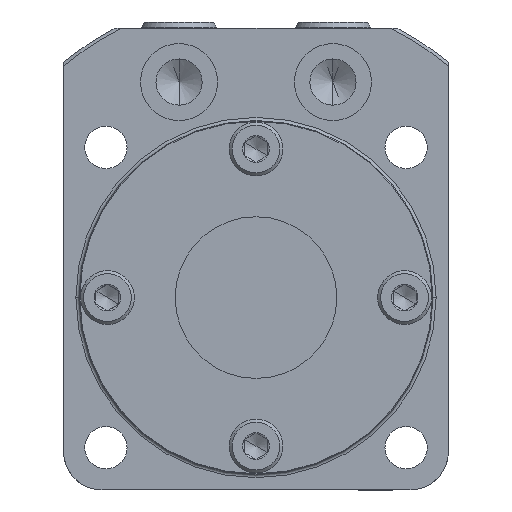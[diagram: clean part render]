
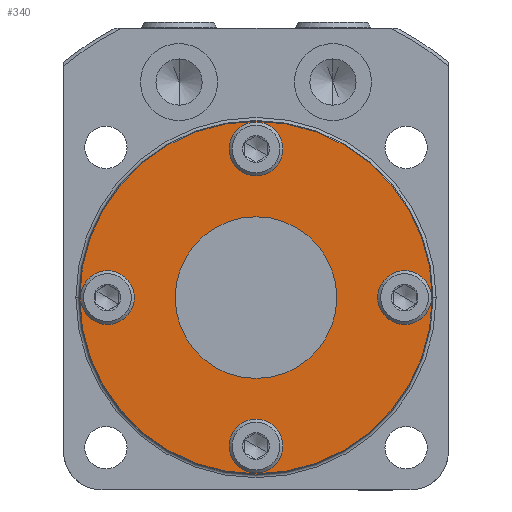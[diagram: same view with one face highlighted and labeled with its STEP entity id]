
A CAD part, front view. The second image highlights one B-rep face of the part: STEP entity #340.
In plain terms, the highlighted planar face has unit normal (0, -1, 0).
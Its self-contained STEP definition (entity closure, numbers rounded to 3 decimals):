
#2 = EDGE_CURVE ( 'NONE', #7, #3, #1942, .T. ) ;
#3 = VERTEX_POINT ( 'NONE', #1937 ) ;
#7 = VERTEX_POINT ( 'NONE', #1931 ) ;
#42 = EDGE_LOOP ( 'NONE', ( #43, #121 ) ) ;
#43 = ORIENTED_EDGE ( 'NONE', *, *, #122, .F. ) ;
#100 = VERTEX_POINT ( 'NONE', #2168 ) ;
#102 = VERTEX_POINT ( 'NONE', #2167 ) ;
#105 = EDGE_CURVE ( 'NONE', #102, #100, #2227, .T. ) ;
#109 = VERTEX_POINT ( 'NONE', #2218 ) ;
#111 = EDGE_CURVE ( 'NONE', #109, #114, #2217, .T. ) ;
#114 = VERTEX_POINT ( 'NONE', #2208 ) ;
#119 = ORIENTED_EDGE ( 'NONE', *, *, #188, .F. ) ;
#120 = EDGE_LOOP ( 'NONE', ( #119, #322 ) ) ;
#121 = ORIENTED_EDGE ( 'NONE', *, *, #163, .F. ) ;
#122 = EDGE_CURVE ( 'NONE', #156, #159, #2200, .T. ) ;
#156 = VERTEX_POINT ( 'NONE', #2287 ) ;
#159 = VERTEX_POINT ( 'NONE', #2273 ) ;
#163 = EDGE_CURVE ( 'NONE', #159, #156, #2270, .T. ) ;
#176 = EDGE_CURVE ( 'NONE', #182, #178, #2315, .T. ) ;
#178 = VERTEX_POINT ( 'NONE', #2307 ) ;
#182 = VERTEX_POINT ( 'NONE', #2302 ) ;
#188 = EDGE_CURVE ( 'NONE', #178, #182, #2352, .T. ) ;
#310 = EDGE_LOOP ( 'NONE', ( #311, #312 ) ) ;
#311 = ORIENTED_EDGE ( 'NONE', *, *, #111, .T. ) ;
#312 = ORIENTED_EDGE ( 'NONE', *, *, #339, .T. ) ;
#322 = ORIENTED_EDGE ( 'NONE', *, *, #176, .F. ) ;
#323 = EDGE_LOOP ( 'NONE', ( #324, #326 ) ) ;
#324 = ORIENTED_EDGE ( 'NONE', *, *, #325, .F. ) ;
#325 = EDGE_CURVE ( 'NONE', #5835, #5884, #2629, .T. ) ;
#326 = ORIENTED_EDGE ( 'NONE', *, *, #5899, .F. ) ;
#327 = EDGE_LOOP ( 'NONE', ( #328, #330 ) ) ;
#328 = ORIENTED_EDGE ( 'NONE', *, *, #329, .F. ) ;
#329 = EDGE_CURVE ( 'NONE', #3, #7, #2622, .T. ) ;
#330 = ORIENTED_EDGE ( 'NONE', *, *, #2, .F. ) ;
#331 = EDGE_LOOP ( 'NONE', ( #332, #333 ) ) ;
#332 = ORIENTED_EDGE ( 'NONE', *, *, #105, .F. ) ;
#333 = ORIENTED_EDGE ( 'NONE', *, *, #334, .F. ) ;
#334 = EDGE_CURVE ( 'NONE', #100, #102, #2617, .T. ) ;
#339 = EDGE_CURVE ( 'NONE', #114, #109, #2606, .T. ) ;
#340 = ADVANCED_FACE ( 'NONE', ( #2601, #2600, #2599, #2598, #2597, #2596 ), #2650, .T. ) ;
#1931 = CARTESIAN_POINT ( 'NONE',  ( 0., 15., 21.45 ) ) ;
#1937 = CARTESIAN_POINT ( 'NONE',  ( 0., 15., 17.15 ) ) ;
#1938 = DIRECTION ( 'NONE',  ( 0., 0., -1. ) ) ;
#1939 = DIRECTION ( 'NONE',  ( 0., -1., 0. ) ) ;
#1940 = CARTESIAN_POINT ( 'NONE',  ( 0., 15., 19.3 ) ) ;
#1941 = AXIS2_PLACEMENT_3D ( 'NONE', #1940, #1939, #1938 ) ;
#1942 = CIRCLE ( 'NONE', #1941, 2.15 ) ;
#2167 = CARTESIAN_POINT ( 'NONE',  ( 0., 15., -10.5 ) ) ;
#2168 = CARTESIAN_POINT ( 'NONE',  ( 0., 15., 10.5 ) ) ;
#2200 = CIRCLE ( 'NONE', #2264, 2.15 ) ;
#2208 = CARTESIAN_POINT ( 'NONE',  ( 0., 15., 22.9 ) ) ;
#2213 = DIRECTION ( 'NONE',  ( 0., 0., -1. ) ) ;
#2214 = DIRECTION ( 'NONE',  ( 0., -1., 0. ) ) ;
#2215 = CARTESIAN_POINT ( 'NONE',  ( 0., 15., 0. ) ) ;
#2216 = AXIS2_PLACEMENT_3D ( 'NONE', #2215, #2214, #2213 ) ;
#2217 = CIRCLE ( 'NONE', #2216, 22.9 ) ;
#2218 = CARTESIAN_POINT ( 'NONE',  ( 0., 15., -22.9 ) ) ;
#2223 = DIRECTION ( 'NONE',  ( 0., 0., -1. ) ) ;
#2224 = DIRECTION ( 'NONE',  ( 0., -1., 0. ) ) ;
#2225 = CARTESIAN_POINT ( 'NONE',  ( 0., 15., 0. ) ) ;
#2226 = AXIS2_PLACEMENT_3D ( 'NONE', #2225, #2224, #2223 ) ;
#2227 = CIRCLE ( 'NONE', #2226, 10.5 ) ;
#2261 = DIRECTION ( 'NONE',  ( 0., 0., -1. ) ) ;
#2262 = DIRECTION ( 'NONE',  ( 0., -1., 0. ) ) ;
#2263 = CARTESIAN_POINT ( 'NONE',  ( 19.3, 15., 0. ) ) ;
#2264 = AXIS2_PLACEMENT_3D ( 'NONE', #2263, #2262, #2261 ) ;
#2266 = DIRECTION ( 'NONE',  ( 0., 0., -1. ) ) ;
#2267 = DIRECTION ( 'NONE',  ( 0., -1., 0. ) ) ;
#2268 = CARTESIAN_POINT ( 'NONE',  ( 19.3, 15., 0. ) ) ;
#2269 = AXIS2_PLACEMENT_3D ( 'NONE', #2268, #2267, #2266 ) ;
#2270 = CIRCLE ( 'NONE', #2269, 2.15 ) ;
#2273 = CARTESIAN_POINT ( 'NONE',  ( 19.3, 15., 2.15 ) ) ;
#2287 = CARTESIAN_POINT ( 'NONE',  ( 19.3, 15., -2.15 ) ) ;
#2302 = CARTESIAN_POINT ( 'NONE',  ( -19.3, 15., 2.15 ) ) ;
#2307 = CARTESIAN_POINT ( 'NONE',  ( -19.3, 15., -2.15 ) ) ;
#2311 = DIRECTION ( 'NONE',  ( 0., 0., -1. ) ) ;
#2312 = DIRECTION ( 'NONE',  ( 0., -1., 0. ) ) ;
#2313 = CARTESIAN_POINT ( 'NONE',  ( -19.3, 15., 0. ) ) ;
#2314 = AXIS2_PLACEMENT_3D ( 'NONE', #2313, #2312, #2311 ) ;
#2315 = CIRCLE ( 'NONE', #2314, 2.15 ) ;
#2348 = DIRECTION ( 'NONE',  ( 0., 0., -1. ) ) ;
#2349 = DIRECTION ( 'NONE',  ( 0., -1., 0. ) ) ;
#2350 = CARTESIAN_POINT ( 'NONE',  ( -19.3, 15., 0. ) ) ;
#2351 = AXIS2_PLACEMENT_3D ( 'NONE', #2350, #2349, #2348 ) ;
#2352 = CIRCLE ( 'NONE', #2351, 2.15 ) ;
#2596 = FACE_OUTER_BOUND ( 'NONE', #310, .T. ) ;
#2597 = FACE_BOUND ( 'NONE', #331, .T. ) ;
#2598 = FACE_BOUND ( 'NONE', #327, .T. ) ;
#2599 = FACE_BOUND ( 'NONE', #323, .T. ) ;
#2600 = FACE_BOUND ( 'NONE', #120, .T. ) ;
#2601 = FACE_BOUND ( 'NONE', #42, .T. ) ;
#2602 = DIRECTION ( 'NONE',  ( 0., 0., -1. ) ) ;
#2603 = DIRECTION ( 'NONE',  ( 0., -1., 0. ) ) ;
#2604 = CARTESIAN_POINT ( 'NONE',  ( 0., 15., 0. ) ) ;
#2605 = AXIS2_PLACEMENT_3D ( 'NONE', #2604, #2603, #2602 ) ;
#2606 = CIRCLE ( 'NONE', #2605, 22.9 ) ;
#2613 = DIRECTION ( 'NONE',  ( 0., 0., -1. ) ) ;
#2614 = DIRECTION ( 'NONE',  ( 0., -1., 0. ) ) ;
#2615 = CARTESIAN_POINT ( 'NONE',  ( 0., 15., 0. ) ) ;
#2616 = AXIS2_PLACEMENT_3D ( 'NONE', #2615, #2614, #2613 ) ;
#2617 = CIRCLE ( 'NONE', #2616, 10.5 ) ;
#2618 = DIRECTION ( 'NONE',  ( 0., 0., -1. ) ) ;
#2619 = DIRECTION ( 'NONE',  ( 0., -1., 0. ) ) ;
#2620 = CARTESIAN_POINT ( 'NONE',  ( 0., 15., 19.3 ) ) ;
#2621 = AXIS2_PLACEMENT_3D ( 'NONE', #2620, #2619, #2618 ) ;
#2622 = CIRCLE ( 'NONE', #2621, 2.15 ) ;
#2623 = DIRECTION ( 'NONE',  ( 0., 0., -1. ) ) ;
#2624 = DIRECTION ( 'NONE',  ( 0., -1., 0. ) ) ;
#2625 = CARTESIAN_POINT ( 'NONE',  ( 0., 15., -19.3 ) ) ;
#2626 = AXIS2_PLACEMENT_3D ( 'NONE', #2625, #2624, #2623 ) ;
#2629 = CIRCLE ( 'NONE', #2626, 2.15 ) ;
#2646 = DIRECTION ( 'NONE',  ( 0., 0., -1. ) ) ;
#2647 = DIRECTION ( 'NONE',  ( 0., -1., 0. ) ) ;
#2648 = CARTESIAN_POINT ( 'NONE',  ( 0., 15., 0. ) ) ;
#2649 = AXIS2_PLACEMENT_3D ( 'NONE', #2648, #2647, #2646 ) ;
#2650 = PLANE ( 'NONE',  #2649 ) ;
#5835 = VERTEX_POINT ( 'NONE', #5875 ) ;
#5869 = DIRECTION ( 'NONE',  ( 0., 0., -1. ) ) ;
#5870 = DIRECTION ( 'NONE',  ( 0., -1., 0. ) ) ;
#5871 = CARTESIAN_POINT ( 'NONE',  ( 0., 15., -19.3 ) ) ;
#5872 = AXIS2_PLACEMENT_3D ( 'NONE', #5871, #5870, #5869 ) ;
#5873 = CIRCLE ( 'NONE', #5872, 2.15 ) ;
#5874 = CARTESIAN_POINT ( 'NONE',  ( 0., 15., -17.15 ) ) ;
#5875 = CARTESIAN_POINT ( 'NONE',  ( 0., 15., -21.45 ) ) ;
#5884 = VERTEX_POINT ( 'NONE', #5874 ) ;
#5899 = EDGE_CURVE ( 'NONE', #5884, #5835, #5873, .T. ) ;
